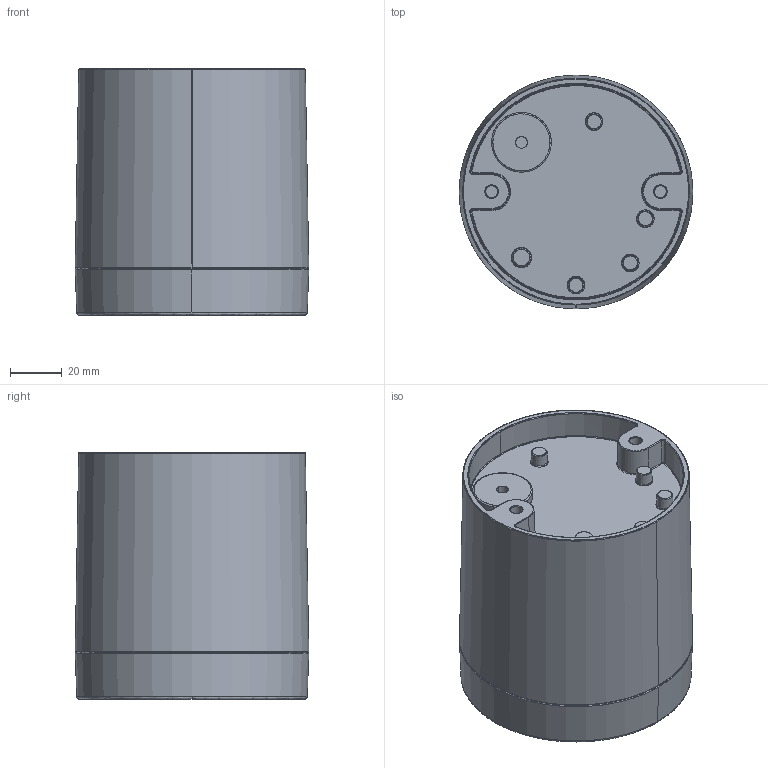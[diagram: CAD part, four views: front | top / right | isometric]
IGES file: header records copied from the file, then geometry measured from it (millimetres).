
Start section: SolidWorks IGES file using analytic representation for surfaces
Global section: file name: \\srvficheros\grupos\DISENYO\DESARROLLO DE PRODUCTO\_3D_WEB\ARTIC-P2091080\ARTIC-P2091080.IGS; native system: SolidWorks 2025; preprocessor: SolidWorks 2025; author: d.pons; date: 260113.081759; units: millimetre
Bounding box: 89.99 x 89.99 x 95 mm (x, y, z)
Surface area: 110463.7 mm2 (no closed solid volume)
Topology: 0 solids, 0 shells, 648 faces, 9073 edges, 9073 vertices
Faces by surface type: bspline 343, revolution 305
